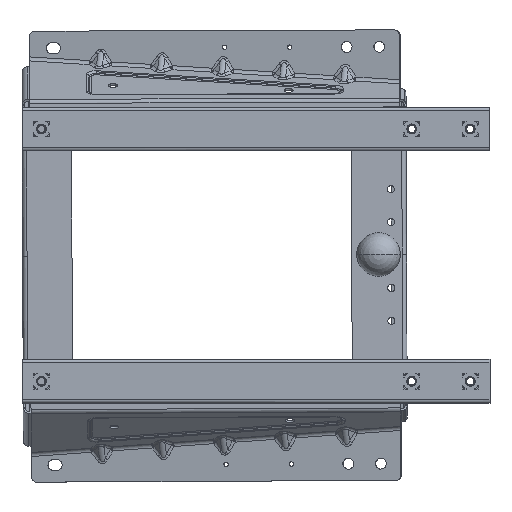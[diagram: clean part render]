
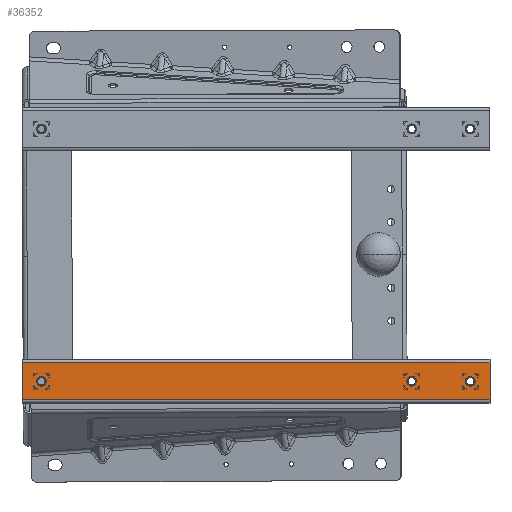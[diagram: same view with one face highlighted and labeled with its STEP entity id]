
A CAD part, top view. The second image highlights one B-rep face of the part: STEP entity #36352.
In plain terms, the highlighted planar face has unit normal (0, 0, 1).
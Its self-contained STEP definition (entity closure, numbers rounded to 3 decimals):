
#36290=AXIS2_PLACEMENT_3D('Plane Axis2P3D',#36287,#36288,#36289) ;
#36300=AXIS2_PLACEMENT_3D('Circle Axis2P3D',#36298,#36299,$) ;
#36309=AXIS2_PLACEMENT_3D('Circle Axis2P3D',#36307,#36308,$) ;
#36318=AXIS2_PLACEMENT_3D('Circle Axis2P3D',#36316,#36317,$) ;
#36327=AXIS2_PLACEMENT_3D('Circle Axis2P3D',#36325,#36326,$) ;
#36336=AXIS2_PLACEMENT_3D('Circle Axis2P3D',#36334,#36335,$) ;
#36345=AXIS2_PLACEMENT_3D('Circle Axis2P3D',#36343,#36344,$) ;
#35685=CARTESIAN_POINT('Vertex',(-534.427,-632.055,362.691)) ;
#35688=CARTESIAN_POINT('Line Origine',(-534.427,-615.055,362.691)) ;
#35692=CARTESIAN_POINT('Vertex',(-534.427,-598.055,362.691)) ;
#35853=CARTESIAN_POINT('Vertex',(-108.427,-632.055,362.691)) ;
#35856=CARTESIAN_POINT('Line Origine',(-319.927,-632.055,362.691)) ;
#35880=CARTESIAN_POINT('Line Origine',(-319.927,-598.055,362.691)) ;
#35884=CARTESIAN_POINT('Vertex',(-108.427,-598.055,362.691)) ;
#35945=CARTESIAN_POINT('Line Origine',(-108.427,-615.055,362.691)) ;
#36287=CARTESIAN_POINT('Axis2P3D Location',(0.,0.,362.691)) ;
#36298=CARTESIAN_POINT('Axis2P3D Location',(-126.427,-615.055,362.691)) ;
#36302=CARTESIAN_POINT('Vertex',(-130.927,-615.055,362.691)) ;
#36304=CARTESIAN_POINT('Vertex',(-121.927,-615.055,362.691)) ;
#36307=CARTESIAN_POINT('Axis2P3D Location',(-126.427,-615.055,362.691)) ;
#36316=CARTESIAN_POINT('Axis2P3D Location',(-517.427,-615.056,362.691)) ;
#36320=CARTESIAN_POINT('Vertex',(-521.927,-615.056,362.691)) ;
#36322=CARTESIAN_POINT('Vertex',(-512.927,-615.056,362.691)) ;
#36325=CARTESIAN_POINT('Axis2P3D Location',(-517.427,-615.056,362.691)) ;
#36334=CARTESIAN_POINT('Axis2P3D Location',(-179.827,-614.994,362.691)) ;
#36338=CARTESIAN_POINT('Vertex',(-184.327,-614.994,362.691)) ;
#36340=CARTESIAN_POINT('Vertex',(-175.327,-614.994,362.691)) ;
#36343=CARTESIAN_POINT('Axis2P3D Location',(-179.827,-614.994,362.691)) ;
#35689=DIRECTION('Vector Direction',(0.,1.,0.)) ;
#35857=DIRECTION('Vector Direction',(1.,0.,0.)) ;
#35881=DIRECTION('Vector Direction',(1.,0.,0.)) ;
#35946=DIRECTION('Vector Direction',(0.,-1.,0.)) ;
#36288=DIRECTION('Axis2P3D Direction',(0.,0.,1.)) ;
#36289=DIRECTION('Axis2P3D XDirection',(1.,0.,0.)) ;
#36299=DIRECTION('Axis2P3D Direction',(0.,0.,1.)) ;
#36308=DIRECTION('Axis2P3D Direction',(0.,0.,1.)) ;
#36317=DIRECTION('Axis2P3D Direction',(0.,0.,1.)) ;
#36326=DIRECTION('Axis2P3D Direction',(0.,0.,1.)) ;
#36335=DIRECTION('Axis2P3D Direction',(0.,0.,1.)) ;
#36344=DIRECTION('Axis2P3D Direction',(0.,0.,1.)) ;
#35690=VECTOR('Line Direction',#35689,1.) ;
#35858=VECTOR('Line Direction',#35857,1.) ;
#35882=VECTOR('Line Direction',#35881,1.) ;
#35947=VECTOR('Line Direction',#35946,1.) ;
#36293=ORIENTED_EDGE('',*,*,#35860,.T.) ;
#36294=ORIENTED_EDGE('',*,*,#35949,.T.) ;
#36295=ORIENTED_EDGE('',*,*,#35886,.F.) ;
#36296=ORIENTED_EDGE('',*,*,#35694,.T.) ;
#36313=ORIENTED_EDGE('',*,*,#36306,.F.) ;
#36314=ORIENTED_EDGE('',*,*,#36311,.F.) ;
#36331=ORIENTED_EDGE('',*,*,#36324,.F.) ;
#36332=ORIENTED_EDGE('',*,*,#36329,.F.) ;
#36349=ORIENTED_EDGE('',*,*,#36342,.F.) ;
#36350=ORIENTED_EDGE('',*,*,#36347,.F.) ;
#36315=FACE_BOUND('',#36312,.T.) ;
#36333=FACE_BOUND('',#36330,.T.) ;
#36351=FACE_BOUND('',#36348,.T.) ;
#36352=ADVANCED_FACE('\X2\96F64EF651E04F554F53\X0\',(#36297,#36315,#36333,#36351),#36291,.T.) ;
#36301=CIRCLE('generated circle',#36300,4.5) ;
#36310=CIRCLE('generated circle',#36309,4.5) ;
#36319=CIRCLE('generated circle',#36318,4.5) ;
#36328=CIRCLE('generated circle',#36327,4.5) ;
#36337=CIRCLE('generated circle',#36336,4.5) ;
#36346=CIRCLE('generated circle',#36345,4.5) ;
#35694=EDGE_CURVE('',#35693,#35686,#35691,.F.) ;
#35860=EDGE_CURVE('',#35686,#35854,#35859,.T.) ;
#35886=EDGE_CURVE('',#35693,#35885,#35883,.T.) ;
#35949=EDGE_CURVE('',#35854,#35885,#35948,.F.) ;
#36306=EDGE_CURVE('',#36303,#36305,#36301,.T.) ;
#36311=EDGE_CURVE('',#36305,#36303,#36310,.T.) ;
#36324=EDGE_CURVE('',#36321,#36323,#36319,.T.) ;
#36329=EDGE_CURVE('',#36323,#36321,#36328,.T.) ;
#36342=EDGE_CURVE('',#36339,#36341,#36337,.T.) ;
#36347=EDGE_CURVE('',#36341,#36339,#36346,.T.) ;
#36292=EDGE_LOOP('',(#36293,#36294,#36295,#36296)) ;
#36312=EDGE_LOOP('',(#36313,#36314)) ;
#36330=EDGE_LOOP('',(#36331,#36332)) ;
#36348=EDGE_LOOP('',(#36349,#36350)) ;
#36297=FACE_OUTER_BOUND('',#36292,.T.) ;
#35691=LINE('Line',#35688,#35690) ;
#35859=LINE('Line',#35856,#35858) ;
#35883=LINE('Line',#35880,#35882) ;
#35948=LINE('Line',#35945,#35947) ;
#36291=PLANE('Plane',#36290) ;
#35686=VERTEX_POINT('',#35685) ;
#35693=VERTEX_POINT('',#35692) ;
#35854=VERTEX_POINT('',#35853) ;
#35885=VERTEX_POINT('',#35884) ;
#36303=VERTEX_POINT('',#36302) ;
#36305=VERTEX_POINT('',#36304) ;
#36321=VERTEX_POINT('',#36320) ;
#36323=VERTEX_POINT('',#36322) ;
#36339=VERTEX_POINT('',#36338) ;
#36341=VERTEX_POINT('',#36340) ;
